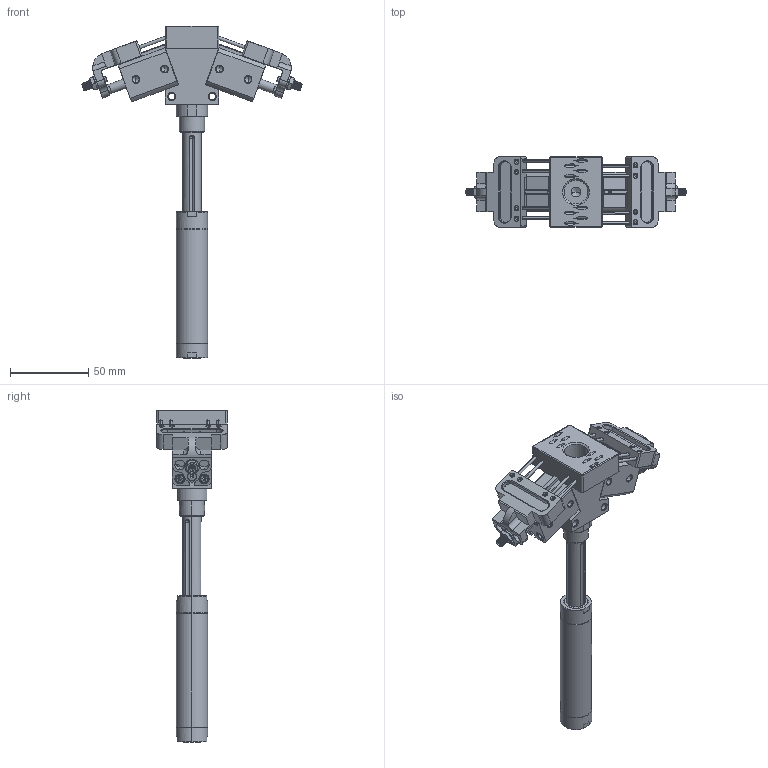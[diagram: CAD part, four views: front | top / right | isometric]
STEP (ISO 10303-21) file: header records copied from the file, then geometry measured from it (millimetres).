
FILE_DESCRIPTION (( 'STEP AP214' ), '1' );
FILE_NAME ('GN2010-8S51.STEP', '2020-09-22T09:16:42', ( 'admin' ), ( '' ), 'SwSTEP 2.0', 'SolidWorks 2016', '' );
FILE_SCHEMA (( 'AUTOMOTIVE_DESIGN' ));
Length unit declared in the file: millimetre
Products named in the file (1): GN2010-8S51
Bounding box: 140.67 x 45 x 211.93 mm (x, y, z)
Volume: 125924.4 mm3; surface area: 64288.9 mm2
Topology: 8 solids, 63 shells, 2597 faces, 5869 edges, 3396 vertices
Faces by surface type: cone 902, plane 815, cylinder 783, bspline 93, torus 4
Entity records: 80665 total; most frequent: CARTESIAN_POINT 22728, DIRECTION 12714, ORIENTED_EDGE 11530, EDGE_CURVE 5765, AXIS2_PLACEMENT_3D 4858, VERTEX_POINT 3396, LINE 2998, VECTOR 2998
